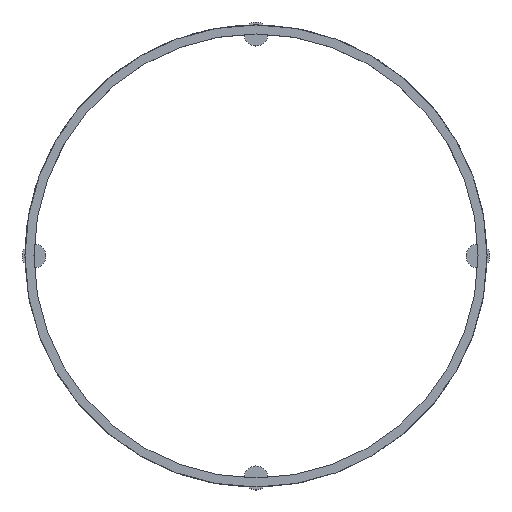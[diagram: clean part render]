
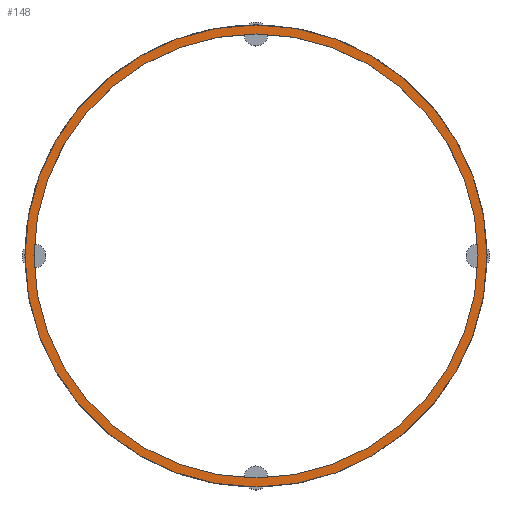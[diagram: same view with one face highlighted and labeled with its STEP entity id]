
A CAD part, top view. The second image highlights one B-rep face of the part: STEP entity #148.
In plain terms, the highlighted planar face has unit normal (0, 0, 1).
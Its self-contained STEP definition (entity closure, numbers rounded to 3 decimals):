
#103=PLANE('',#738);
#127=FACE_BOUND('',#245,.T.);
#128=FACE_BOUND('',#246,.T.);
#148=ADVANCED_FACE('',(#127,#128),#103,.T.);
#245=EDGE_LOOP('',(#375));
#246=EDGE_LOOP('',(#376));
#375=ORIENTED_EDGE('',*,*,#534,.F.);
#376=ORIENTED_EDGE('',*,*,#587,.T.);
#482=VERTEX_POINT('',#1040);
#527=VERTEX_POINT('',#1150);
#534=EDGE_CURVE('',#482,#482,#616,.T.);
#587=EDGE_CURVE('',#527,#527,#655,.T.);
#616=CIRCLE('',#686,37.);
#655=CIRCLE('',#737,38.5);
#686=AXIS2_PLACEMENT_3D('',#1039,#803,#804);
#737=AXIS2_PLACEMENT_3D('',#1149,#919,#920);
#738=AXIS2_PLACEMENT_3D('',#1151,#921,#922);
#803=DIRECTION('',(0.,0.,1.));
#804=DIRECTION('',(1.,0.,0.));
#919=DIRECTION('',(0.,0.,1.));
#920=DIRECTION('',(1.,0.,0.));
#921=DIRECTION('',(0.,0.,1.));
#922=DIRECTION('',(1.,0.,0.));
#1039=CARTESIAN_POINT('',(0.,0.,6.));
#1040=CARTESIAN_POINT('',(37.,0.,6.));
#1149=CARTESIAN_POINT('',(0.,0.,6.));
#1150=CARTESIAN_POINT('',(38.5,0.,6.));
#1151=CARTESIAN_POINT('',(0.,0.,6.));
